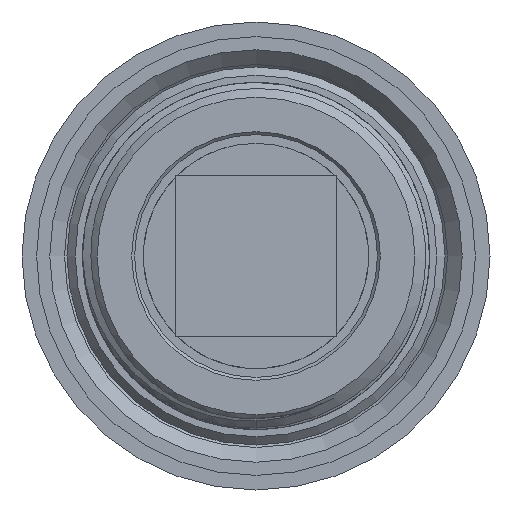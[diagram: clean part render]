
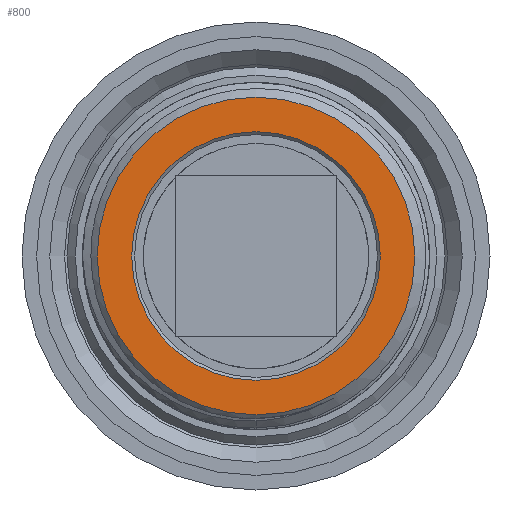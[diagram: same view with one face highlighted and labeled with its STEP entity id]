
A CAD part, front view. The second image highlights one B-rep face of the part: STEP entity #800.
In plain terms, the highlighted planar face has unit normal (0, -1, 0).
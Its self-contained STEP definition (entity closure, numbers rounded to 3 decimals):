
#20=FACE_BOUND('',#252,.T.);
#194=FACE_OUTER_BOUND('',#251,.T.);
#251=EDGE_LOOP('',(#608));
#252=EDGE_LOOP('',(#609));
#296=CIRCLE('',#870,5.43);
#304=CIRCLE('',#890,4.25);
#343=VERTEX_POINT('',#1275);
#372=VERTEX_POINT('',#2608);
#417=EDGE_CURVE('',#343,#343,#296,.T.);
#459=EDGE_CURVE('',#372,#372,#304,.T.);
#608=ORIENTED_EDGE('',*,*,#417,.T.);
#609=ORIENTED_EDGE('',*,*,#459,.T.);
#764=PLANE('',#889);
#800=ADVANCED_FACE('',(#194,#20),#764,.F.);
#870=AXIS2_PLACEMENT_3D('',#1277,#978,#979);
#889=AXIS2_PLACEMENT_3D('',#2607,#1024,#1025);
#890=AXIS2_PLACEMENT_3D('',#2609,#1026,#1027);
#978=DIRECTION('center_axis',(0.,-1.,0.));
#979=DIRECTION('ref_axis',(0.,0.,1.));
#1024=DIRECTION('center_axis',(0.,1.,0.));
#1025=DIRECTION('ref_axis',(0.,0.,1.));
#1026=DIRECTION('center_axis',(0.,1.,0.));
#1027=DIRECTION('ref_axis',(0.,0.,1.));
#1275=CARTESIAN_POINT('',(0.,0.,-5.43));
#1277=CARTESIAN_POINT('Origin',(0.,0.,0.));
#2607=CARTESIAN_POINT('Origin',(0.,0.,0.));
#2608=CARTESIAN_POINT('',(0.,0.,4.25));
#2609=CARTESIAN_POINT('Origin',(0.,0.,0.));
